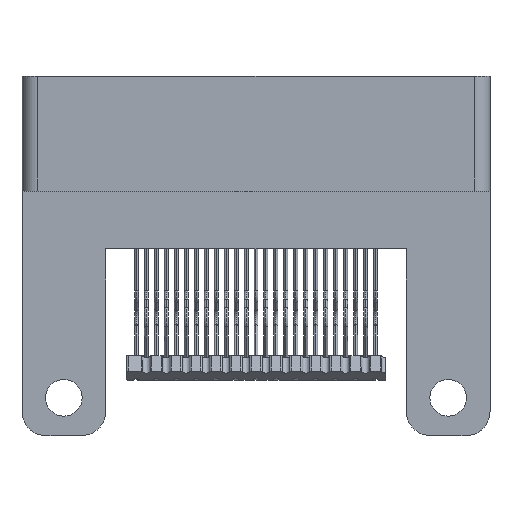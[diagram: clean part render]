
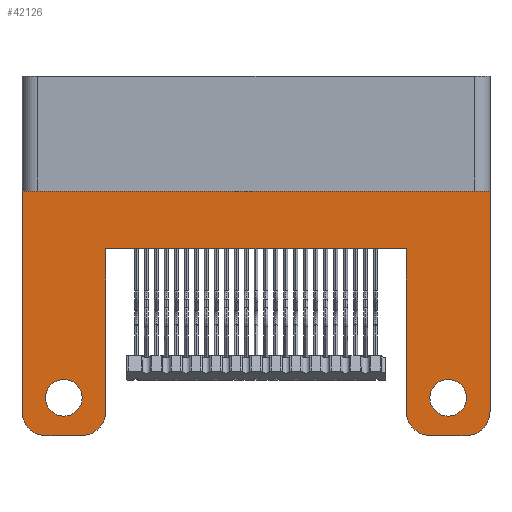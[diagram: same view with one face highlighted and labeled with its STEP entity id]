
A CAD part, front view. The second image highlights one B-rep face of the part: STEP entity #42126.
In plain terms, the highlighted planar face has unit normal (0, -1, 0).
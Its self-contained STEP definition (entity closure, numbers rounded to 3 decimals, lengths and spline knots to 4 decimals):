
#71 = DIRECTION ( 'NONE',  ( -1., 0., 0. ) ) ;
#588 = DIRECTION ( 'NONE',  ( -1., 0., 0. ) ) ;
#689 = CARTESIAN_POINT ( 'NONE',  ( -0.3775, -0.17, -0.607 ) ) ;
#728 = AXIS2_PLACEMENT_3D ( 'NONE', #22844, #44002, #588 ) ;
#1652 = AXIS2_PLACEMENT_3D ( 'NONE', #44074, #44215, #22706 ) ;
#1791 = CARTESIAN_POINT ( 'NONE',  ( -0.5875, -0.17, -0.667 ) ) ;
#1821 = CIRCLE ( 'NONE', #26951, 0.06 ) ;
#2288 = VERTEX_POINT ( 'NONE', #689 ) ;
#3055 = ORIENTED_EDGE ( 'NONE', *, *, #4128, .F. ) ;
#3452 = VERTEX_POINT ( 'NONE', #9400 ) ;
#3537 = VECTOR ( 'NONE', #26076, 39.3701 ) ;
#3653 = EDGE_CURVE ( 'NONE', #3452, #41894, #1821, .T. ) ;
#3909 = DIRECTION ( 'NONE',  ( 0., -1., 0. ) ) ;
#3968 = DIRECTION ( 'NONE',  ( 0., 1., 0. ) ) ;
#4057 = AXIS2_PLACEMENT_3D ( 'NONE', #20295, #3909, #45338 ) ;
#4071 = VECTOR ( 'NONE', #4820, 39.3701 ) ;
#4128 = EDGE_CURVE ( 'NONE', #22584, #45902, #21380, .T. ) ;
#4133 = ORIENTED_EDGE ( 'NONE', *, *, #11272, .T. ) ;
#4333 = EDGE_CURVE ( 'NONE', #16091, #19481, #13583, .T. ) ;
#4820 = DIRECTION ( 'NONE',  ( -1., 0., 0. ) ) ;
#5120 = EDGE_CURVE ( 'NONE', #45902, #5444, #23497, .T. ) ;
#5444 = VERTEX_POINT ( 'NONE', #32330 ) ;
#5918 = CARTESIAN_POINT ( 'NONE',  ( 0.5875, -0.17, -0.667 ) ) ;
#6512 = CARTESIAN_POINT ( 'NONE',  ( 0.3775, -0.17, -0.667 ) ) ;
#6746 = EDGE_CURVE ( 'NONE', #19358, #32545, #41155, .T. ) ;
#6920 = VECTOR ( 'NONE', #39185, 39.3701 ) ;
#7458 = DIRECTION ( 'NONE',  ( 0., 0., 1. ) ) ;
#7770 = ORIENTED_EDGE ( 'NONE', *, *, #4333, .F. ) ;
#8178 = LINE ( 'NONE', #29196, #26024 ) ;
#9400 = CARTESIAN_POINT ( 'NONE',  ( 0.5275, -0.17, -0.667 ) ) ;
#9483 = AXIS2_PLACEMENT_3D ( 'NONE', #21418, #35836, #71 ) ;
#9531 = DIRECTION ( 'NONE',  ( 0., 0., 1. ) ) ;
#9790 = CARTESIAN_POINT ( 'NONE',  ( 0.3775, -0.17, -0.053 ) ) ;
#10486 = AXIS2_PLACEMENT_3D ( 'NONE', #40397, #43968, #18934 ) ;
#10745 = VECTOR ( 'NONE', #21322, 39.3701 ) ;
#11147 = CARTESIAN_POINT ( 'NONE',  ( -0.5875, -0.17, -0.607 ) ) ;
#11272 = EDGE_CURVE ( 'NONE', #32545, #19358, #27354, .T. ) ;
#12257 = CARTESIAN_POINT ( 'NONE',  ( 0.4365, -0.17, -0.572 ) ) ;
#13365 = EDGE_CURVE ( 'NONE', #22584, #21525, #21752, .T. ) ;
#13583 = LINE ( 'NONE', #15587, #4071 ) ;
#14191 = ORIENTED_EDGE ( 'NONE', *, *, #36144, .T. ) ;
#14632 = CARTESIAN_POINT ( 'NONE',  ( -0.4375, -0.17, -0.667 ) ) ;
#14759 = DIRECTION ( 'NONE',  ( 0., -1., 0. ) ) ;
#14774 = EDGE_CURVE ( 'NONE', #16091, #2288, #16633, .T. ) ;
#15587 = CARTESIAN_POINT ( 'NONE',  ( -0.3775, -0.17, -0.667 ) ) ;
#15769 = VECTOR ( 'NONE', #16136, 39.3701 ) ;
#15795 = ORIENTED_EDGE ( 'NONE', *, *, #38329, .T. ) ;
#15797 = FACE_BOUND ( 'NONE', #37738, .T. ) ;
#16091 = VERTEX_POINT ( 'NONE', #14632 ) ;
#16136 = DIRECTION ( 'NONE',  ( 0., 0., 1. ) ) ;
#16241 = ORIENTED_EDGE ( 'NONE', *, *, #31016, .T. ) ;
#16509 = CARTESIAN_POINT ( 'NONE',  ( 0.4375, -0.17, -0.667 ) ) ;
#16633 = CIRCLE ( 'NONE', #29848, 0.06 ) ;
#16926 = CARTESIAN_POINT ( 'NONE',  ( 0.5275, -0.17, -0.607 ) ) ;
#17218 = EDGE_LOOP ( 'NONE', ( #46348, #15795, #7770, #32471, #14191, #29190, #3055, #33303, #39720, #37356, #26824, #40421 ) ) ;
#17296 = DIRECTION ( 'NONE',  ( -1., 0., 0. ) ) ;
#17661 = VERTEX_POINT ( 'NONE', #21012 ) ;
#17993 = LINE ( 'NONE', #1791, #15769 ) ;
#18134 = EDGE_CURVE ( 'NONE', #38515, #44802, #25890, .T. ) ;
#18243 = CARTESIAN_POINT ( 'NONE',  ( -0.4365, -0.17, -0.572 ) ) ;
#18934 = DIRECTION ( 'NONE',  ( -1., 0., 0. ) ) ;
#18960 = VERTEX_POINT ( 'NONE', #11147 ) ;
#19110 = LINE ( 'NONE', #24889, #10745 ) ;
#19178 = PLANE ( 'NONE',  #1652 ) ;
#19358 = VERTEX_POINT ( 'NONE', #42833 ) ;
#19481 = VERTEX_POINT ( 'NONE', #32689 ) ;
#20295 = CARTESIAN_POINT ( 'NONE',  ( 0.4375, -0.17, -0.607 ) ) ;
#20395 = DIRECTION ( 'NONE',  ( 1., 0., 0. ) ) ;
#21012 = CARTESIAN_POINT ( 'NONE',  ( 0.5285, -0.17, -0.572 ) ) ;
#21199 = LINE ( 'NONE', #5918, #27343 ) ;
#21322 = DIRECTION ( 'NONE',  ( 1., 0., 0. ) ) ;
#21380 = LINE ( 'NONE', #6512, #3537 ) ;
#21418 = CARTESIAN_POINT ( 'NONE',  ( -0.4825, -0.17, -0.572 ) ) ;
#21521 = ORIENTED_EDGE ( 'NONE', *, *, #24453, .T. ) ;
#21525 = VERTEX_POINT ( 'NONE', #16509 ) ;
#21752 = CIRCLE ( 'NONE', #4057, 0.06 ) ;
#22584 = VERTEX_POINT ( 'NONE', #29332 ) ;
#22706 = DIRECTION ( 'NONE',  ( 1., 0., 0. ) ) ;
#22808 = DIRECTION ( 'NONE',  ( 1., 0., 0. ) ) ;
#22844 = CARTESIAN_POINT ( 'NONE',  ( -0.4825, -0.17, -0.572 ) ) ;
#23497 = LINE ( 'NONE', #32557, #41473 ) ;
#23599 = CIRCLE ( 'NONE', #43690, 0.06 ) ;
#24453 = EDGE_CURVE ( 'NONE', #17661, #27970, #30689, .T. ) ;
#24889 = CARTESIAN_POINT ( 'NONE',  ( 0.3775, -0.17, -0.667 ) ) ;
#25267 = FACE_OUTER_BOUND ( 'NONE', #17218, .T. ) ;
#25890 = LINE ( 'NONE', #9790, #6920 ) ;
#26024 = VECTOR ( 'NONE', #7458, 39.3701 ) ;
#26076 = DIRECTION ( 'NONE',  ( 0., 0., 1. ) ) ;
#26096 = EDGE_LOOP ( 'NONE', ( #36114, #4133 ) ) ;
#26824 = ORIENTED_EDGE ( 'NONE', *, *, #34151, .T. ) ;
#26930 = CARTESIAN_POINT ( 'NONE',  ( 0.4825, -0.17, -0.572 ) ) ;
#26951 = AXIS2_PLACEMENT_3D ( 'NONE', #16926, #29210, #22808 ) ;
#27343 = VECTOR ( 'NONE', #9531, 39.3701 ) ;
#27354 = CIRCLE ( 'NONE', #9483, 0.046 ) ;
#27926 = EDGE_CURVE ( 'NONE', #18960, #38515, #17993, .T. ) ;
#27970 = VERTEX_POINT ( 'NONE', #12257 ) ;
#29190 = ORIENTED_EDGE ( 'NONE', *, *, #5120, .F. ) ;
#29196 = CARTESIAN_POINT ( 'NONE',  ( -0.3775, -0.17, -0.667 ) ) ;
#29210 = DIRECTION ( 'NONE',  ( 0., -1., 0. ) ) ;
#29308 = AXIS2_PLACEMENT_3D ( 'NONE', #26930, #3968, #17296 ) ;
#29332 = CARTESIAN_POINT ( 'NONE',  ( 0.3775, -0.17, -0.607 ) ) ;
#29848 = AXIS2_PLACEMENT_3D ( 'NONE', #45436, #34655, #20395 ) ;
#30689 = CIRCLE ( 'NONE', #10486, 0.046 ) ;
#31016 = EDGE_CURVE ( 'NONE', #27970, #17661, #40704, .T. ) ;
#31695 = DIRECTION ( 'NONE',  ( -1., 0., 0. ) ) ;
#32330 = CARTESIAN_POINT ( 'NONE',  ( -0.3775, -0.17, -0.198 ) ) ;
#32471 = ORIENTED_EDGE ( 'NONE', *, *, #14774, .T. ) ;
#32545 = VERTEX_POINT ( 'NONE', #18243 ) ;
#32557 = CARTESIAN_POINT ( 'NONE',  ( 0.39, -0.17, -0.198 ) ) ;
#32689 = CARTESIAN_POINT ( 'NONE',  ( -0.5275, -0.17, -0.667 ) ) ;
#33153 = CARTESIAN_POINT ( 'NONE',  ( 0.3775, -0.17, -0.198 ) ) ;
#33303 = ORIENTED_EDGE ( 'NONE', *, *, #13365, .T. ) ;
#34151 = EDGE_CURVE ( 'NONE', #41894, #44802, #21199, .T. ) ;
#34655 = DIRECTION ( 'NONE',  ( 0., -1., 0. ) ) ;
#35836 = DIRECTION ( 'NONE',  ( 0., 1., 0. ) ) ;
#36114 = ORIENTED_EDGE ( 'NONE', *, *, #6746, .T. ) ;
#36144 = EDGE_CURVE ( 'NONE', #2288, #5444, #8178, .T. ) ;
#36186 = CARTESIAN_POINT ( 'NONE',  ( -0.5275, -0.17, -0.607 ) ) ;
#36567 = CARTESIAN_POINT ( 'NONE',  ( 0.5875, -0.17, -0.053 ) ) ;
#37356 = ORIENTED_EDGE ( 'NONE', *, *, #3653, .T. ) ;
#37738 = EDGE_LOOP ( 'NONE', ( #16241, #21521 ) ) ;
#38329 = EDGE_CURVE ( 'NONE', #18960, #19481, #23599, .T. ) ;
#38515 = VERTEX_POINT ( 'NONE', #40892 ) ;
#39185 = DIRECTION ( 'NONE',  ( 1., 0., 0. ) ) ;
#39720 = ORIENTED_EDGE ( 'NONE', *, *, #42479, .T. ) ;
#39812 = DIRECTION ( 'NONE',  ( 1., 0., 0. ) ) ;
#40397 = CARTESIAN_POINT ( 'NONE',  ( 0.4825, -0.17, -0.572 ) ) ;
#40421 = ORIENTED_EDGE ( 'NONE', *, *, #18134, .F. ) ;
#40704 = CIRCLE ( 'NONE', #29308, 0.046 ) ;
#40892 = CARTESIAN_POINT ( 'NONE',  ( -0.5875, -0.17, -0.053 ) ) ;
#41155 = CIRCLE ( 'NONE', #728, 0.046 ) ;
#41473 = VECTOR ( 'NONE', #31695, 39.3701 ) ;
#41894 = VERTEX_POINT ( 'NONE', #45479 ) ;
#42126 = ADVANCED_FACE ( 'NONE', ( #25267, #15797, #43246 ), #19178, .T. ) ;
#42479 = EDGE_CURVE ( 'NONE', #21525, #3452, #19110, .T. ) ;
#42833 = CARTESIAN_POINT ( 'NONE',  ( -0.5285, -0.17, -0.572 ) ) ;
#43246 = FACE_BOUND ( 'NONE', #26096, .T. ) ;
#43690 = AXIS2_PLACEMENT_3D ( 'NONE', #36186, #14759, #39812 ) ;
#43968 = DIRECTION ( 'NONE',  ( 0., 1., 0. ) ) ;
#44002 = DIRECTION ( 'NONE',  ( 0., 1., 0. ) ) ;
#44074 = CARTESIAN_POINT ( 'NONE',  ( 0.3775, -0.17, -0.667 ) ) ;
#44215 = DIRECTION ( 'NONE',  ( 0., -1., 0. ) ) ;
#44802 = VERTEX_POINT ( 'NONE', #36567 ) ;
#45338 = DIRECTION ( 'NONE',  ( 1., 0., 0. ) ) ;
#45436 = CARTESIAN_POINT ( 'NONE',  ( -0.4375, -0.17, -0.607 ) ) ;
#45479 = CARTESIAN_POINT ( 'NONE',  ( 0.5875, -0.17, -0.607 ) ) ;
#45902 = VERTEX_POINT ( 'NONE', #33153 ) ;
#46348 = ORIENTED_EDGE ( 'NONE', *, *, #27926, .F. ) ;
